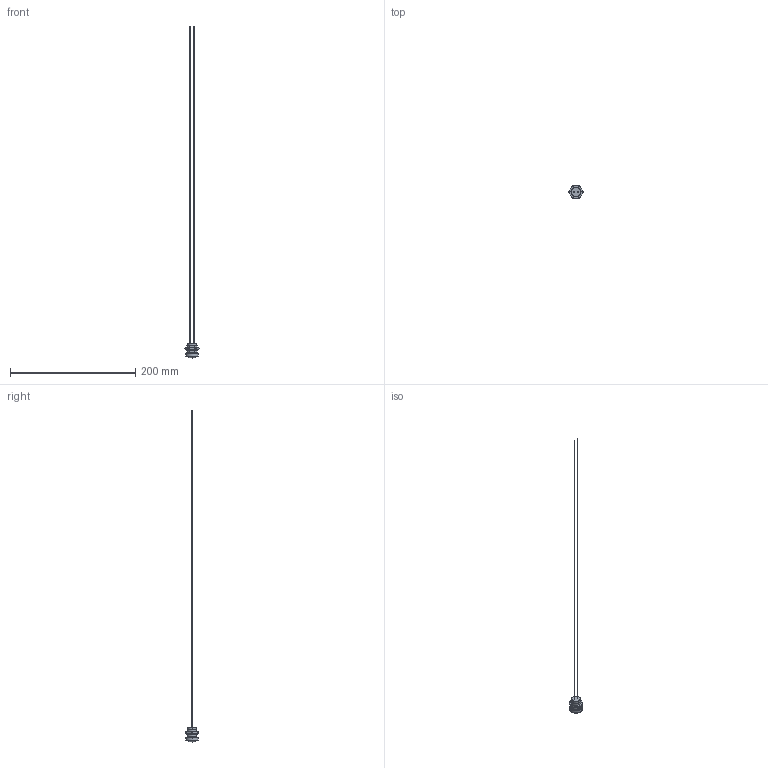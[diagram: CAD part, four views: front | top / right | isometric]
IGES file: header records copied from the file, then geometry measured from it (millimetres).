
Start section: SolidWorks IGES file using analytic representation for surfaces
Global section: file name: X:\Archive - Switch\Switches Series (Top Levels)\series 49-59\Step & Iges Files\49-5911X.IGS; native system: SolidWorks 2012; preprocessor: SolidWorks 2012; author: Alan_B; date: 121001.153124; units: millimetre
Bounding box: 23.09 x 20 x 529.9 mm (x, y, z)
Surface area: 5310.1 mm2 (no closed solid volume)
Topology: 0 solids, 0 shells, 55 faces, 799 edges, 797 vertices
Faces by surface type: revolution 29, bspline 26
